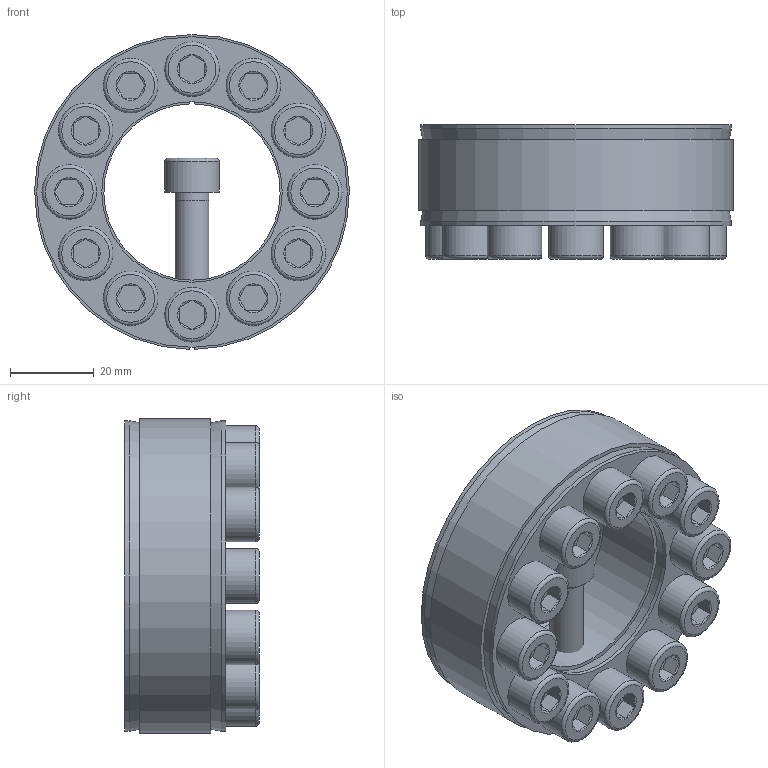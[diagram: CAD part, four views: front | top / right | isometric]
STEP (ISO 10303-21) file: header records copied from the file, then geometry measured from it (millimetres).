
FILE_DESCRIPTION( ( 'Unknown' ), '1' );
FILE_NAME( 'C:/Dokumente und Einstellungen/Sven/Desktop/homepage/cad - homepage/KBS40/KBS 40 - 42 x 75.stp', 'Unknown', ( 'Unknown' ), ( 'Unknown' ), 'XStep 1.0', 'Unknown', ' ' );
FILE_SCHEMA( ( 'automotive_design' ) );
Length unit declared in the file: millimetre
Products named in the file (14): Assem1; KBS 40 42x75; ISO 4762 M8x22; ISO 4762 M8x22-oa0; ISO 4762 M8x22-oa1; ISO 4762 M8x22-oa2; ISO 4762 M8x22-oa3; ISO 4762 M8x22-oa4; ISO 4762 M8x22-oa5; ISO 4762 M8x22-oa6; ISO 4762 M8x22-oa7; ISO 4762 M8x22-oa8; ISO 4762 M8x22-oa9; ISO 4762 M8x22-oa10
Bounding box: 75 x 32 x 74.99 mm (x, y, z)
Volume: 161808.1 mm3; surface area: 72240.9 mm2
Topology: 26 solids, 26 shells, 684 faces, 1268 edges, 732 vertices
Faces by surface type: plane 328, cone 176, cylinder 132, torus 48
Full cylindrical faces by diameter (mm): 7 x24, 8 x72, 13 x24, 43 x4, 74 x4
Entity records: 8451 total; most frequent: CARTESIAN_POINT 1752, DIRECTION 1392, ORIENTED_EDGE 1008, AXIS2_PLACEMENT_3D 604, EDGE_LOOP 520, EDGE_CURVE 504, FACE_OUTER_BOUND 430, ADVANCED_FACE 342
